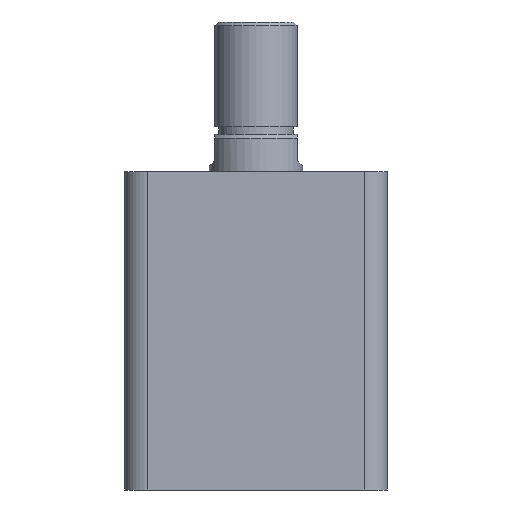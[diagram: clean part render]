
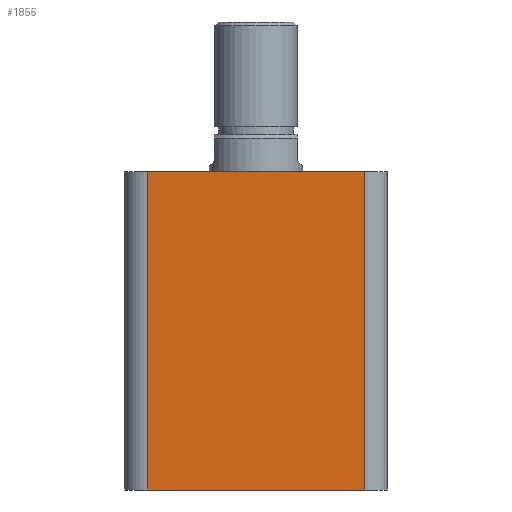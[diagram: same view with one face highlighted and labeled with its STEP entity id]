
A CAD part, front view. The second image highlights one B-rep face of the part: STEP entity #1855.
In plain terms, the highlighted planar face has unit normal (0, -1, 0).
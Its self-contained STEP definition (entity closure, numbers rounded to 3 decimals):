
#328 = EDGE_LOOP ( 'NONE', ( #462, #463, #464, #465 ) ) ;
#462 = ORIENTED_EDGE ( 'NONE', *, *, #2139, .F. ) ;
#463 = ORIENTED_EDGE ( 'NONE', *, *, #2140, .T. ) ;
#464 = ORIENTED_EDGE ( 'NONE', *, *, #2141, .T. ) ;
#465 = ORIENTED_EDGE ( 'NONE', *, *, #2142, .T. ) ;
#481 = VERTEX_POINT ( 'NONE', #2009 ) ;
#495 = VERTEX_POINT ( 'NONE', #1962 ) ;
#496 = VERTEX_POINT ( 'NONE', #1958 ) ;
#497 = VERTEX_POINT ( 'NONE', #1956 ) ;
#595 = DIRECTION ( 'NONE',  ( 1., 0., 0. ) ) ;
#596 = CARTESIAN_POINT ( 'NONE',  ( -35., -35., 85. ) ) ;
#611 = CARTESIAN_POINT ( 'NONE',  ( -35., -35., 0. ) ) ;
#1276 = AXIS2_PLACEMENT_3D ( 'NONE', #2232, #2212, #2211 ) ;
#1554 = VECTOR ( 'NONE', #2714, 1000. ) ;
#1556 = VECTOR ( 'NONE', #2716, 1000. ) ;
#1557 = LINE ( 'NONE', #2715, #1554 ) ;
#1558 = VECTOR ( 'NONE', #2711, 1000. ) ;
#1560 = VECTOR ( 'NONE', #595, 1000. ) ;
#1561 = LINE ( 'NONE', #2717, #1558 ) ;
#1563 = LINE ( 'NONE', #596, #1560 ) ;
#1569 = LINE ( 'NONE', #611, #1556 ) ;
#1636 = FACE_OUTER_BOUND ( 'NONE', #328, .T. ) ;
#1855 = ADVANCED_FACE ( 'NONE', ( #1636 ), #2214, .F. ) ;
#1956 = CARTESIAN_POINT ( 'NONE',  ( 29., -35., 85. ) ) ;
#1958 = CARTESIAN_POINT ( 'NONE',  ( 29., -35., 0. ) ) ;
#1962 = CARTESIAN_POINT ( 'NONE',  ( -29., -35., 0. ) ) ;
#2009 = CARTESIAN_POINT ( 'NONE',  ( -29., -35., 85. ) ) ;
#2139 = EDGE_CURVE ( 'NONE', #481, #497, #1563, .T. ) ;
#2140 = EDGE_CURVE ( 'NONE', #481, #495, #1561, .T. ) ;
#2141 = EDGE_CURVE ( 'NONE', #495, #496, #1569, .T. ) ;
#2142 = EDGE_CURVE ( 'NONE', #496, #497, #1557, .T. ) ;
#2211 = DIRECTION ( 'NONE',  ( 0., 0., 1. ) ) ;
#2212 = DIRECTION ( 'NONE',  ( 0., 1., 0. ) ) ;
#2214 = PLANE ( 'NONE',  #1276 ) ;
#2232 = CARTESIAN_POINT ( 'NONE',  ( -35., -35., 85. ) ) ;
#2711 = DIRECTION ( 'NONE',  ( 0., 0., -1. ) ) ;
#2714 = DIRECTION ( 'NONE',  ( 0., 0., 1. ) ) ;
#2715 = CARTESIAN_POINT ( 'NONE',  ( 29., -35., 85. ) ) ;
#2716 = DIRECTION ( 'NONE',  ( 1., 0., 0. ) ) ;
#2717 = CARTESIAN_POINT ( 'NONE',  ( -29., -35., 85. ) ) ;
